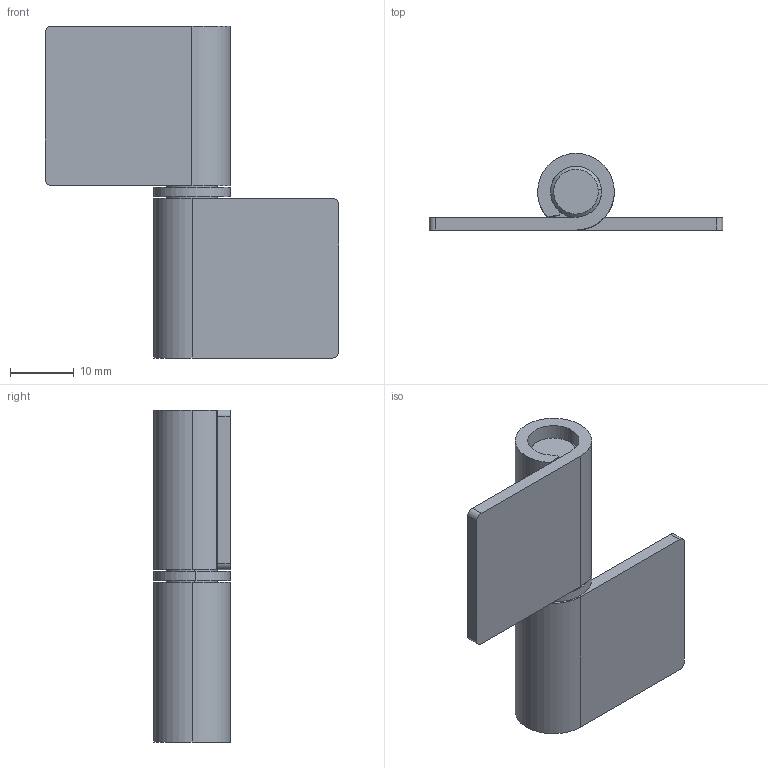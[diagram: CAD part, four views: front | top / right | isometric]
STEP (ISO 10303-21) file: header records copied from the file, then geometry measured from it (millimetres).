
FILE_DESCRIPTION (( 'STEP AP214' ), '1' );
FILE_NAME ('SK2-032-1S.STEP', '2020-04-15T06:11:08', ( 'admin' ), ( 'Microsoft' ), 'SwSTEP 2.0', 'SolidWorks 2018', '' );
FILE_SCHEMA (( 'AUTOMOTIVE_DESIGN' ));
Length unit declared in the file: millimetre
Products named in the file (3): 2-032-1S-F2; 2-032-1S-F1; SK2-032-1S
Assembly tree (3 placements, depth 2):
  SK2-032-1S
    2-032-1S-F1  x2
    2-032-1S-F2
Bounding box: 46 x 12 x 52 mm (x, y, z)
Volume: 7573.8 mm3; surface area: 7112.4 mm2
Topology: 3 solids, 3 shells, 44 faces, 104 edges, 68 vertices
Faces by surface type: cylinder 22, plane 18, cone 4
Entity records: 937 total; most frequent: DIRECTION 167, CARTESIAN_POINT 142, ORIENTED_EDGE 130, AXIS2_PLACEMENT_3D 67, EDGE_CURVE 65, VERTEX_POINT 42, LINE 33, VECTOR 33
